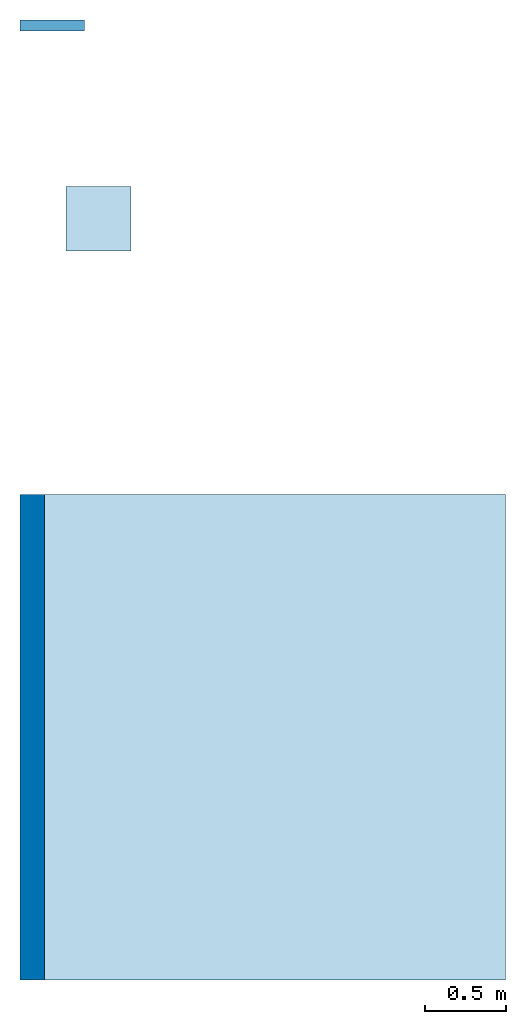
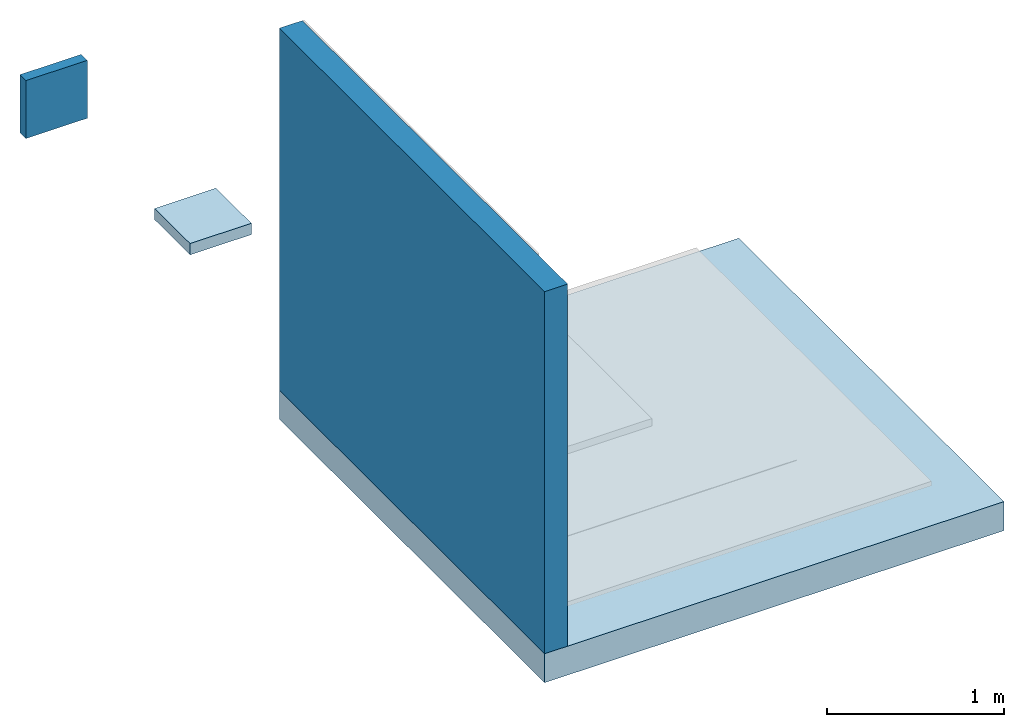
# One storey, part 1 of 2: 2 slabs, 2 walls.
"""IFC2X3 building model written with IfcOpenShell, lengths in metres."""

from ifc_helpers import new_model, entity, si_unit, converted_unit, derived_unit, direction, frame, frame_2d, origin, origin_2d_with_axis, place, context, subcontext, project, spatial, rectangle, extrude, material, layer, layer_set, layer_usage, type_object, element, save


model = new_model("IFC2X3")

# Units and contexts
model_context = context("Model", 3, precision=1e-05, world=origin(), true_north=direction((6.123031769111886e-17, 1.0)))
body_context = subcontext(model_context, "Body", "Model", "MODEL_VIEW")
ifc_project = project(units=[si_unit("LENGTHUNIT", "METRE"), si_unit("AREAUNIT", "SQUARE_METRE"), si_unit("VOLUMEUNIT", "CUBIC_METRE"), converted_unit("PLANEANGLEUNIT", "DEGREE", entity("IfcRatioMeasure", 0.017453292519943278), si_unit("PLANEANGLEUNIT", "RADIAN"), dimensions=[0, 0, 0, 0, 0, 0, 0]), si_unit("MASSUNIT", "GRAM", prefix="KILO"), derived_unit("MASSDENSITYUNIT", [(si_unit("MASSUNIT", "GRAM", prefix="KILO"), 1), (si_unit("LENGTHUNIT", "METRE"), -3)]), derived_unit("IONCONCENTRATIONUNIT", [(si_unit("MASSUNIT", "GRAM", prefix="KILO"), 1), (si_unit("LENGTHUNIT", "METRE"), -3)]), derived_unit("MOMENTOFINERTIAUNIT", [(si_unit("LENGTHUNIT", "METRE"), 4)]), si_unit("TIMEUNIT", "SECOND"), si_unit("FREQUENCYUNIT", "HERTZ"), si_unit("THERMODYNAMICTEMPERATUREUNIT", "DEGREE_CELSIUS"), derived_unit("THERMALTRANSMITTANCEUNIT", [(si_unit("MASSUNIT", "GRAM", prefix="KILO"), 1), (si_unit("THERMODYNAMICTEMPERATUREUNIT", "KELVIN"), -1), (si_unit("TIMEUNIT", "SECOND"), -3)]), derived_unit("THERMALCONDUCTANCEUNIT", [(si_unit("MASSUNIT", "GRAM", prefix="KILO"), 1), (si_unit("THERMODYNAMICTEMPERATUREUNIT", "KELVIN"), -1), (si_unit("TIMEUNIT", "SECOND"), -3), (si_unit("LENGTHUNIT", "METRE"), 1)]), derived_unit("VOLUMETRICFLOWRATEUNIT", [(si_unit("LENGTHUNIT", "METRE"), 3), (si_unit("TIMEUNIT", "SECOND"), -1)]), derived_unit("MASSFLOWRATEUNIT", [(si_unit("MASSUNIT", "GRAM", prefix="KILO"), 1), (si_unit("TIMEUNIT", "SECOND"), -1)]), derived_unit("ROTATIONALFREQUENCYUNIT", [(si_unit("TIMEUNIT", "SECOND"), -1)]), si_unit("ELECTRICCURRENTUNIT", "AMPERE"), si_unit("ELECTRICVOLTAGEUNIT", "VOLT"), si_unit("POWERUNIT", "WATT"), si_unit("FORCEUNIT", "NEWTON", prefix="KILO"), si_unit("ILLUMINANCEUNIT", "LUX"), si_unit("LUMINOUSFLUXUNIT", "LUMEN"), si_unit("LUMINOUSINTENSITYUNIT", "CANDELA"), derived_unit("USERDEFINED", [(si_unit("MASSUNIT", "GRAM", prefix="KILO"), -1), (si_unit("LENGTHUNIT", "METRE"), -2), (si_unit("TIMEUNIT", "SECOND"), 3), (si_unit("LUMINOUSFLUXUNIT", "LUMEN"), 1)]), derived_unit("USERDEFINED", [(si_unit("MASSUNIT", "GRAM", prefix="KILO"), 1), (si_unit("TIMEUNIT", "SECOND"), -3), (si_unit("LENGTHUNIT", "METRE"), 3), (si_unit("ELECTRICCURRENTUNIT", "AMPERE"), -2)]), derived_unit("SOUNDPOWERUNIT", [(si_unit("MASSUNIT", "GRAM", prefix="KILO"), 1), (si_unit("TIMEUNIT", "SECOND"), -3), (si_unit("LENGTHUNIT", "METRE"), 2)]), derived_unit("SOUNDPRESSUREUNIT", [(si_unit("MASSUNIT", "GRAM", prefix="KILO"), 1), (si_unit("LENGTHUNIT", "METRE"), -1), (si_unit("TIMEUNIT", "SECOND"), -2)]), derived_unit("LINEARVELOCITYUNIT", [(si_unit("LENGTHUNIT", "METRE"), 1), (si_unit("TIMEUNIT", "SECOND"), -1)]), si_unit("PRESSUREUNIT", "PASCAL"), derived_unit("USERDEFINED", [(si_unit("MASSUNIT", "GRAM", prefix="KILO"), 1), (si_unit("LENGTHUNIT", "METRE"), -2), (si_unit("TIMEUNIT", "SECOND"), -2)]), derived_unit("LINEARFORCEUNIT", [(si_unit("MASSUNIT", "GRAM", prefix="KILO"), 1), (si_unit("TIMEUNIT", "SECOND"), -2)]), derived_unit("PLANARFORCEUNIT", [(si_unit("MASSUNIT", "GRAM", prefix="KILO"), 1), (si_unit("LENGTHUNIT", "METRE"), -1), (si_unit("TIMEUNIT", "SECOND"), -2)]), derived_unit("SPECIFICHEATCAPACITYUNIT", [(si_unit("THERMODYNAMICTEMPERATUREUNIT", "KELVIN"), -1), (si_unit("LENGTHUNIT", "METRE"), 2), (si_unit("TIMEUNIT", "SECOND"), -2)]), derived_unit("HEATINGVALUEUNIT", [(si_unit("LENGTHUNIT", "METRE"), 2), (si_unit("TIMEUNIT", "SECOND"), -2)]), derived_unit("VAPORPERMEABILITYUNIT", [(si_unit("LENGTHUNIT", "METRE"), -1), (si_unit("TIMEUNIT", "SECOND"), 1)]), derived_unit("DYNAMICVISCOSITYUNIT", [(si_unit("MASSUNIT", "GRAM", prefix="KILO"), 1), (si_unit("TIMEUNIT", "SECOND"), -1), (si_unit("LENGTHUNIT", "METRE"), -1)]), derived_unit("THERMALEXPANSIONCOEFFICIENTUNIT", [(si_unit("THERMODYNAMICTEMPERATUREUNIT", "KELVIN"), -1)]), derived_unit("MODULUSOFELASTICITYUNIT", [(si_unit("MASSUNIT", "GRAM", prefix="KILO"), 1), (si_unit("LENGTHUNIT", "METRE"), -1), (si_unit("TIMEUNIT", "SECOND"), -2)]), derived_unit("ISOTHERMALMOISTURECAPACITYUNIT", [(si_unit("LENGTHUNIT", "METRE"), 3), (si_unit("MASSUNIT", "GRAM", prefix="KILO"), -1)]), derived_unit("MOISTUREDIFFUSIVITYUNIT", [(si_unit("TIMEUNIT", "SECOND"), -1), (si_unit("LENGTHUNIT", "METRE"), 2)])], contexts=[model_context])

# Site, building, storey
site_placement = place(None, origin())
site = spatial("IfcSite", under=ifc_project, at=site_placement, Name="Default", CompositionType="ELEMENT")
building_placement = place(site_placement, origin())
building = spatial("IfcBuilding", under=site, at=building_placement, CompositionType="ELEMENT")
storey_placement = place(building_placement, frame((0.0, 0.0, -0.0025237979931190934)))
storey = spatial("IfcBuildingStorey", under=building, at=storey_placement, Name="ARQ Térreo", CompositionType="ELEMENT", Elevation=-0.0025237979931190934)

# Slabs
ifc_material_1 = material(Name="#concreto")
ifc_layer_1 = layer(ifc_material_1, 0.2)
ifc_layer_set_1 = layer_set([ifc_layer_1], Name="Piso:Piso:LAJE CONCRETO")
ifc_layer_usage_1 = layer_usage(ifc_layer_set_1, "AXIS3", "POSITIVE", 0.0)
slab_type_1 = type_object("IfcSlabType", Name="Piso:Piso:LAJE CONCRETO", PredefinedType="FLOOR", material=ifc_layer_set_1)
slab_1_placement = place(storey_placement, origin())
element("IfcSlab", 1, at=slab_1_placement, inside=storey, type_object=slab_type_1, material=ifc_layer_usage_1, Name="Piso:Piso:LAJE CONCRETO", ObjectType="Piso:Piso:LAJE CONCRETO", PredefinedType="FLOOR", context=body_context, shape_type="SweptSolid", body=[
    extrude(rectangle(XDim=3.0000000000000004, YDim=3.0000000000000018, at=origin_2d_with_axis()), frame((0.9980295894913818, -1.354129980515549, 0.0), z_axis=(0.0, 0.0, -1.0), x_axis=(0.0, 1.0, 0.0)), (0.0, 0.0, 1.0), 0.2),
])
ifc_material_2 = material(Name="#revestimento")
ifc_layer_2 = layer(ifc_material_2, 0.005)
ifc_material_3 = material(Name="#proteção mecânica")
ifc_layer_3 = layer(ifc_material_3, 0.05)
ifc_material_4 = material(Name="#Emulsão Confort Plus")
ifc_layer_4 = layer(ifc_material_4, 0.003)
ifc_material_5 = material(Name="#argamassa")
ifc_layer_5 = layer(ifc_material_5, 0.02)
ifc_layer_set_2 = layer_set([ifc_layer_2, ifc_layer_3, ifc_layer_4, ifc_layer_5], Name="Piso:IMPH_EMULSÃO VIAPOL ANTIRRUIDO")
ifc_layer_usage_2 = layer_usage(ifc_layer_set_2, "AXIS3", "POSITIVE", 0.0)
slab_type_2 = type_object("IfcSlabType", Name="Piso:IMPH_EMULSÃO VIAPOL ANTIRRUIDO", PredefinedType="FLOOR", material=ifc_layer_set_2)
slab_2_placement = place(storey_placement, origin())
element("IfcSlab", 2, at=slab_2_placement, inside=storey, type_object=slab_type_2, material=ifc_layer_usage_2, Name="Piso:IMPH_EMULSÃO VIAPOL ANTIRRUIDO", ObjectType="Piso:IMPH_EMULSÃO VIAPOL ANTIRRUIDO", PredefinedType="FLOOR", context=body_context, shape_type="SweptSolid", body=[
    extrude(rectangle(XDim=0.4, YDim=0.4, at=origin_2d_with_axis()), frame((-0.01614191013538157, 1.8510407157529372, 0.0), z_axis=(0.0, 0.0, -1.0), x_axis=(0.0, 1.0, 0.0)), (0.0, 0.0, 1.0), 0.078),
])

# Walls
ifc_layer_6 = layer(ifc_material_1, 0.14999999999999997)
ifc_layer_set_3 = layer_set([ifc_layer_6], Name="Parede básica:Parede básica:Parede Concreto")
ifc_layer_usage_3 = layer_usage(ifc_layer_set_3, "AXIS2", "NEGATIVE", 0.07499999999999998)
wall_type_1 = type_object("IfcWallType", Name="Parede básica:Parede básica:Parede Concreto", PredefinedType="STANDARD", material=ifc_layer_set_3)
wall_1_placement = place(storey_placement, frame((-0.4269704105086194, 0.14587001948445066, 0.0), z_axis=(0.0, 0.0, 1.0), x_axis=(0.0, -1.0, 0.0)))
element("IfcWallStandardCase", 3, at=wall_1_placement, inside=storey, type_object=wall_type_1, material=ifc_layer_usage_3, Name="Parede básica:Parede Concreto", ObjectType="Parede básica:Parede Concreto", context=body_context, shape_type="SweptSolid", body=[
    extrude(rectangle(XDim=2.9999999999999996, YDim=0.15000000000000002, at=frame_2d((1.4999999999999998, 0.0), x_axis=(-1.0, 0.0))), origin(), (0.0, 0.0, 1.0), 2.4999999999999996),
])
ifc_layer_7 = layer(ifc_material_2, 0.005)
ifc_layer_8 = layer(ifc_material_3, 0.05)
ifc_layer_9 = layer(ifc_material_4, 0.003)
ifc_layer_10 = layer(ifc_material_5, 0.01)
ifc_layer_set_4 = layer_set([ifc_layer_7, ifc_layer_8, ifc_layer_9, ifc_layer_10], Name="Parede básica:IMPV_EMULSÃO CONFORT PLUS")
ifc_layer_usage_4 = layer_usage(ifc_layer_set_4, "AXIS2", "POSITIVE", -0.034)
wall_type_2 = type_object("IfcWallType", Name="Parede básica:IMPV_EMULSÃO CONFORT PLUS", PredefinedType="STANDARD", material=ifc_layer_set_4)
wall_2_placement = place(storey_placement, frame((-0.5019704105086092, 3.0458700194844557, 0.0)))
element("IfcWallStandardCase", 4, at=wall_2_placement, inside=storey, type_object=wall_type_2, material=ifc_layer_usage_4, Name="Parede básica:IMPV_T4PP", ObjectType="Parede básica:IMPV_T4PP", context=body_context, shape_type="SweptSolid", body=[
    extrude(rectangle(XDim=0.4000000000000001, YDim=0.0679999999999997, at=frame_2d((0.20000000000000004, -1.0408340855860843e-16), x_axis=(-1.0, 0.0))), origin(), (0.0, 0.0, 1.0), 0.4),
])

save(model, "model.ifc")
